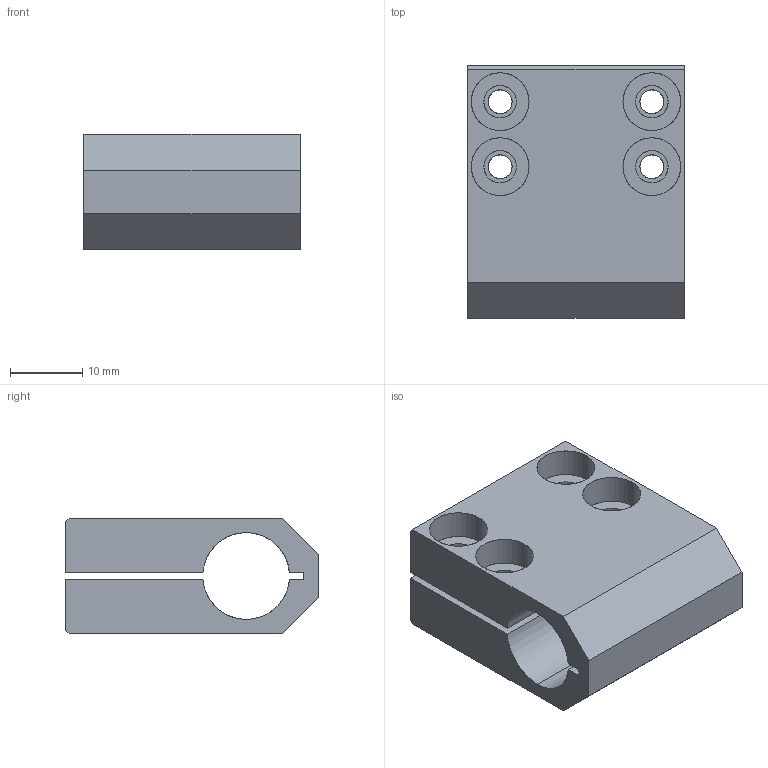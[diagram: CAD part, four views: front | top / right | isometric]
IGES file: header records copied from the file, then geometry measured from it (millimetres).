
Start section: SolidWorks IGES file using analytic representation for surfaces
Global section: file name: C:\Documents and Settings\CAD53\デスクトップ\IGES\N01861-401-2.IGS; native system: SolidWorks 2005 by SolidWorks Corporation; preprocessor: SolidWorks 2005 by SolidWorks Corporation; author: CAD53; date: 070530.103131; units: millimetre
Bounding box: 30 x 35 x 16 mm (x, y, z)
Surface area: 6905.3 mm2 (no closed solid volume)
Topology: 0 solids, 0 shells, 52 faces, 1112 edges, 1112 vertices
Faces by surface type: revolution 30, bspline 22
